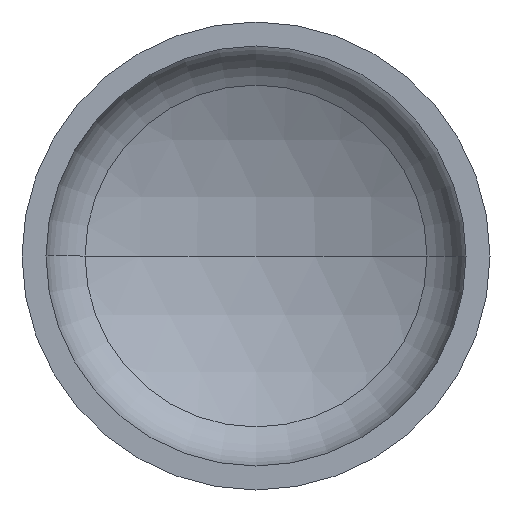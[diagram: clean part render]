
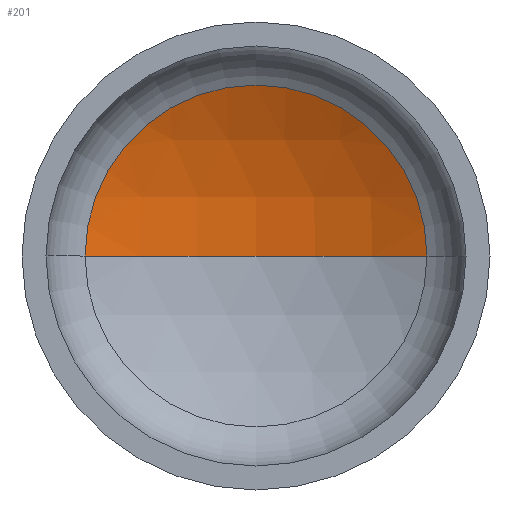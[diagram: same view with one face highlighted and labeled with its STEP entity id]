
A CAD part, front view. The second image highlights one B-rep face of the part: STEP entity #201.
In plain terms, the highlighted spherical face has radius 218 mm.
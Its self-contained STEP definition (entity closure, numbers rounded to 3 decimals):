
#10 = AXIS2_PLACEMENT_3D ( 'NONE', #98, #118, #50 ) ;
#11 = AXIS2_PLACEMENT_3D ( 'NONE', #298, #214, #344 ) ;
#12 = EDGE_LOOP ( 'NONE', ( #42, #123, #166 ) ) ;
#13 = VERTEX_POINT ( 'NONE', #232 ) ;
#42 = ORIENTED_EDGE ( 'NONE', *, *, #376, .F. ) ;
#43 = VERTEX_POINT ( 'NONE', #238 ) ;
#50 = DIRECTION ( 'NONE',  ( -1., 0., 0. ) ) ;
#62 = AXIS2_PLACEMENT_3D ( 'NONE', #180, #361, #176 ) ;
#98 = CARTESIAN_POINT ( 'NONE',  ( 0., -111.511, 0. ) ) ;
#118 = DIRECTION ( 'NONE',  ( 0., 0., -1. ) ) ;
#123 = ORIENTED_EDGE ( 'NONE', *, *, #350, .T. ) ;
#136 = VERTEX_POINT ( 'NONE', #287 ) ;
#166 = ORIENTED_EDGE ( 'NONE', *, *, #348, .T. ) ;
#176 = DIRECTION ( 'NONE',  ( -1., 0., 0. ) ) ;
#180 = CARTESIAN_POINT ( 'NONE',  ( 0., -111.511, 0. ) ) ;
#201 = ADVANCED_FACE ( 'NONE', ( #301 ), #306, .F. ) ;
#214 = DIRECTION ( 'NONE',  ( 0., -1., 0. ) ) ;
#232 = CARTESIAN_POINT ( 'NONE',  ( 99.71, 82.349, 0. ) ) ;
#238 = CARTESIAN_POINT ( 'NONE',  ( -99.71, 82.349, 0. ) ) ;
#245 = DIRECTION ( 'NONE',  ( 0., 0., 1. ) ) ;
#285 = AXIS2_PLACEMENT_3D ( 'NONE', #300, #245, #409 ) ;
#287 = CARTESIAN_POINT ( 'NONE',  ( 0., 106.489, 0. ) ) ;
#298 = CARTESIAN_POINT ( 'NONE',  ( 0., 82.349, 0. ) ) ;
#300 = CARTESIAN_POINT ( 'NONE',  ( 0., -111.511, 0. ) ) ;
#301 = FACE_OUTER_BOUND ( 'NONE', #12, .T. ) ;
#306 = SPHERICAL_SURFACE ( 'NONE', #62, 218. ) ;
#337 = CIRCLE ( 'NONE', #10, 218. ) ;
#344 = DIRECTION ( 'NONE',  ( 1., 0., 0. ) ) ;
#348 = EDGE_CURVE ( 'NONE', #13, #43, #391, .T. ) ;
#350 = EDGE_CURVE ( 'NONE', #136, #13, #337, .T. ) ;
#361 = DIRECTION ( 'NONE',  ( 0., 0., -1. ) ) ;
#376 = EDGE_CURVE ( 'NONE', #136, #43, #386, .T. ) ;
#386 = CIRCLE ( 'NONE', #285, 218. ) ;
#391 = CIRCLE ( 'NONE', #11, 99.71 ) ;
#409 = DIRECTION ( 'NONE',  ( 1., 0., 0. ) ) ;
